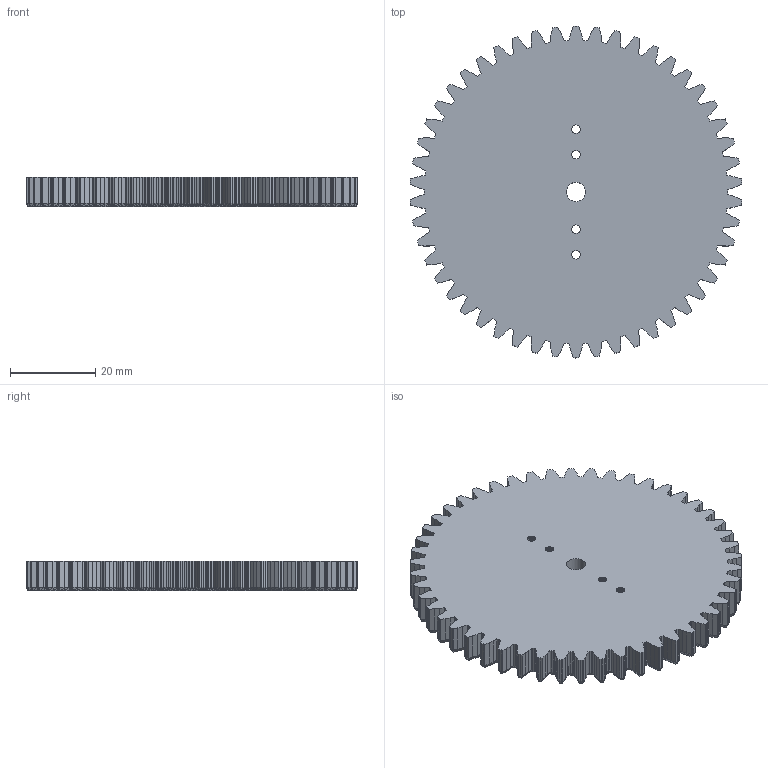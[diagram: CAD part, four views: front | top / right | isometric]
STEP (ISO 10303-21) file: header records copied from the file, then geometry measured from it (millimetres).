
FILE_DESCRIPTION(/* description */ ('STEP AP242 Edition 2','CAx-IF Rec.Pracs.---Representation and Presentation of Product Manufacturing Information (PMI)---4.0---2014-10-13','CAx-IF Rec.Pracs.---3D Tessellated Geometry---0.4---2014-09-14','2;1','CAx-IF Rec.Pracs.---User Defined Attributes---1.5---2016-08-15'),/* implementation_level */ '2;1');
FILE_NAME(/* name */ 'Tracker Assembly - Horz Gear',/* time_stamp */ '2026-10-25T15:06:35Z',/* author */ (''),/* organization */ (''),/* preprocessor_version */ 'ST-DEVELOPER v20',/* originating_system */ 'ONSHAPE BY PTC INC, 1.222',/* authorisation */ ' ');
FILE_SCHEMA (('AP242_MANAGED_MODEL_BASED_3D_ENGINEERING_MIM_LF { 1 0 10303 442 3 1 4 }'));
Length unit declared in the file: metre
Products named in the file (1): Horz Gear
Bounding box: 77.91 x 78 x 7 mm (x, y, z)
Volume: 29821.2 mm3; surface area: 12309.9 mm2
Topology: 1 solids, 1 shells, 1908 faces, 3923 edges, 2018 vertices
Faces by surface type: plane 1903, cylinder 5
Full cylindrical faces by diameter (mm): 4.5 x1
Entity records: 46818 total; most frequent: CARTESIAN_POINT 7849, ORIENTED_EDGE 7844, DIRECTION 7750, EDGE_CURVE 3922, LINE 3912, VECTOR 3912, VERTEX_POINT 2018, EDGE_LOOP 1920
